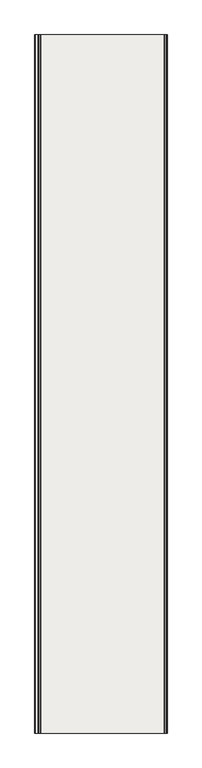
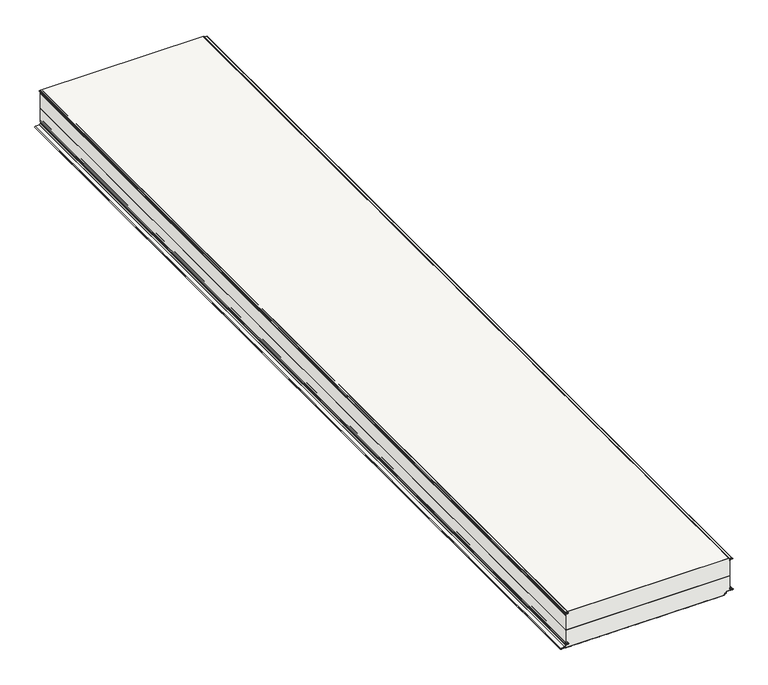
"""IFC4 building model written with IfcOpenShell, lengths in millimetres: covering geometry, Wall sandwich panel SPW-H CORE WOOL (single sheet) : -."""

from ifc_helpers import new_model, si_unit, point, frame, frame_2d, origin, place, context, project, spatial, polyline, circle_curve, trimmed, segment, composite_curve, outline, extrude, source, transform, mapped, element, save
from ifc_brep_helpers import plane_surface, cylinder_surface, revolved_surface, advanced_brep


def covering_f1df908d(model_context):
    return source(origin(), model_context, "Body", "SolidModel", [
        extrude(outline(composite_curve([segment(polyline([(-240.0, -1049.0098003), (-239.6, -1047.6275239), (-239.6, -1003.4098003), (-240.0, -1002.0275239), (-240.0, -957.8098003), (-239.6, -956.4275239), (-239.6, -912.2098003), (-240.0, -910.8275239), (-240.0, -866.6098003), (-239.6, -865.2275239), (-239.6, -821.0098003), (-240.0, -819.6275239), (-240.0, -775.4098003), (-239.6, -774.0275239), (-239.6, -729.8098003), (-240.0, -728.4275239), (-240.0, -684.2098003), (-239.6, -682.8275239), (-239.6, -638.6098003), (-240.0, -637.2275239), (-240.0, -593.0098003), (-239.6, -591.6275239), (-239.6, -547.4098003), (-240.0, -546.0275239), (-240.0, -501.8098003), (-239.6, -500.4275239), (-239.6, -456.2098003), (-240.0, -454.8275239), (-240.0, -410.6098003), (-239.6, -409.2275239), (-239.6, -365.0098003), (-240.0, -363.6275239), (-240.0, -319.4098003), (-239.6, -318.0275239), (-239.6, -273.8098003), (-240.0, -272.4275239), (-240.0, -228.2098003), (-239.6, -226.8275239), (-239.6, -182.6098003), (-240.0, -181.2275239), (-240.0, -137.0098003), (-239.6, -135.6275239), (-239.6, -91.4098003), (-240.0, -90.0275239), (-240.0, -73.4477183)]), True, "CONTINUOUS"), segment(trimmed(circle_curve(frame_2d((-235.0, -73.4477183)), 5.0), [point((-240.0, -73.4477183))], [point((-235.0, -68.4477183))], False, "CARTESIAN"), True, "CONTINUOUS"), segment(polyline([(-235.0, -68.4477183), (-232.008232, -68.4477183)]), True, "CONTINUOUS"), segment(trimmed(circle_curve(frame_2d((-232.008232, -66.4315256)), 2.0161927), [point((-232.008232, -68.4477183))], [point((-229.9920393, -66.4315256))], True, "CARTESIAN"), True, "CONTINUOUS"), segment(polyline([(-229.9920393, -66.4315256), (-229.9920393, -60.9141788)]), True, "CONTINUOUS"), segment(trimmed(circle_curve(frame_2d((-227.4959919, -60.9141788)), 2.4960474), [point((-229.9920393, -60.9141788))], [point((-227.9326372, -58.4566204))], False, "CARTESIAN"), True, "CONTINUOUS"), segment(polyline([(-227.9326372, -58.4566204), (-221.6533464, -57.3460478)]), True, "CONTINUOUS"), segment(trimmed(circle_curve(frame_2d((-222.0004127, -55.3763918)), 2.0), [point((-221.6533464, -57.3460478))], [point((-220.0004127, -55.3763918))], True, "CARTESIAN"), True, "CONTINUOUS"), segment(polyline([(-220.0004127, -55.3763918), (-220.0004127, -18.8763918)]), True, "CONTINUOUS"), segment(trimmed(circle_curve(frame_2d((-217.0004127, -18.8763918)), 3.0), [point((-220.0004127, -18.8763918))], [point((-214.0045241, -18.7193839))], False, "CARTESIAN"), True, "CONTINUOUS"), segment(polyline([(-214.0045241, -18.7193839), (-213.2754556, -32.6308399)]), True, "CONTINUOUS"), segment(trimmed(circle_curve(frame_2d((-210.7788817, -32.5)), 2.5), [point((-213.2754556, -32.6308399))], [point((-210.7788817, -35.0))], True, "CARTESIAN"), True, "CONTINUOUS"), segment(polyline([(-210.7788817, -35.0), (-201.4988817, -35.0), (-201.4988817, -36.0), (-210.7788817, -36.0)]), True, "CONTINUOUS"), segment(trimmed(circle_curve(frame_2d((-210.7788817, -32.5)), 3.5), [point((-210.7788817, -36.0))], [point((-214.2740851, -32.6831758))], False, "CARTESIAN"), True, "CONTINUOUS"), segment(polyline([(-214.2740851, -32.6831758), (-215.0031536, -18.7717199)]), True, "CONTINUOUS"), segment(trimmed(circle_curve(frame_2d((-217.0004127, -18.8763918)), 2.0), [point((-215.0031536, -18.7717199))], [point((-219.0004127, -18.8763918))], True, "CARTESIAN"), True, "CONTINUOUS"), segment(polyline([(-219.0004127, -18.8763918), (-219.0004127, -55.3763918)]), True, "CONTINUOUS"), segment(trimmed(circle_curve(frame_2d((-222.0004127, -55.3763918)), 3.0), [point((-219.0004127, -55.3763918))], [point((-221.4794682, -58.330815))], False, "CARTESIAN"), True, "CONTINUOUS"), segment(polyline([(-221.4794682, -58.330815), (-227.7580406, -59.4412605)]), True, "CONTINUOUS"), segment(trimmed(circle_curve(frame_2d((-227.4959919, -60.9141788)), 1.4960474), [point((-227.7580406, -59.4412605))], [point((-228.9920393, -60.9141788))], True, "CARTESIAN"), True, "CONTINUOUS"), segment(polyline([(-228.9920393, -60.9141788), (-228.9920393, -66.4315256)]), True, "CONTINUOUS"), segment(trimmed(circle_curve(frame_2d((-232.008232, -66.4315256)), 3.0161927), [point((-228.9920393, -66.4315256))], [point((-232.008232, -69.4477183))], False, "CARTESIAN"), True, "CONTINUOUS"), segment(polyline([(-232.008232, -69.4477183), (-235.0, -69.4477183)]), True, "CONTINUOUS"), segment(trimmed(circle_curve(frame_2d((-235.0, -73.4477183)), 4.0), [point((-235.0, -69.4477183))], [point((-239.0, -73.4477183))], True, "CARTESIAN"), True, "CONTINUOUS"), segment(polyline([(-239.0, -73.4477183), (-239.0, -1085.0), (-240.0, -1085.0), (-240.0, -1049.0098003)]), True, "CONTINUOUS")], self_intersect=False)), frame((0.0, -5800.0, 0.0), z_axis=(0.0, 1.0, 0.0), x_axis=(0.0, 0.0, 1.0)), (0.0, 0.0, 1.0), 5800.0),
        extrude(outline(composite_curve([segment(polyline([(-239.0, -1085.0), (-240.0, -1085.0), (-240.0, -73.4477183)]), True, "CONTINUOUS"), segment(trimmed(circle_curve(frame_2d((-235.0, -73.4477183)), 5.0), [point((-240.0, -73.4477183))], [point((-235.0, -68.4477183))], False, "CARTESIAN"), True, "CONTINUOUS"), segment(polyline([(-235.0, -68.4477183), (-232.008232, -68.4477183)]), True, "CONTINUOUS"), segment(trimmed(circle_curve(frame_2d((-232.008232, -66.4315256)), 2.0161927), [point((-232.008232, -68.4477183))], [point((-229.9920393, -66.4315256))], True, "CARTESIAN"), True, "CONTINUOUS"), segment(polyline([(-229.9920393, -66.4315256), (-229.9920393, -60.9141788)]), True, "CONTINUOUS"), segment(trimmed(circle_curve(frame_2d((-227.4959919, -60.9141788)), 2.4960474), [point((-229.9920393, -60.9141788))], [point((-227.9326372, -58.4566204))], False, "CARTESIAN"), True, "CONTINUOUS"), segment(polyline([(-227.9326372, -58.4566204), (-221.6533464, -57.3460478)]), True, "CONTINUOUS"), segment(trimmed(circle_curve(frame_2d((-222.0004127, -55.3763918)), 2.0), [point((-221.6533464, -57.3460478))], [point((-220.0004127, -55.3763918))], True, "CARTESIAN"), True, "CONTINUOUS"), segment(polyline([(-220.0004127, -55.3763918), (-220.0004127, -18.8763918)]), True, "CONTINUOUS"), segment(trimmed(circle_curve(frame_2d((-217.0004127, -18.8763918)), 3.0), [point((-220.0004127, -18.8763918))], [point((-214.0045241, -18.7193839))], False, "CARTESIAN"), True, "CONTINUOUS"), segment(polyline([(-214.0045241, -18.7193839), (-213.2754556, -32.6308399)]), True, "CONTINUOUS"), segment(trimmed(circle_curve(frame_2d((-210.7788817, -32.5)), 2.5), [point((-213.2754556, -32.6308399))], [point((-210.7788817, -35.0))], True, "CARTESIAN"), True, "CONTINUOUS"), segment(polyline([(-210.7788817, -35.0), (-201.4988817, -35.0), (-201.4988817, -36.0), (-210.7788817, -36.0)]), True, "CONTINUOUS"), segment(trimmed(circle_curve(frame_2d((-210.7788817, -32.5)), 3.5), [point((-210.7788817, -36.0))], [point((-214.2740851, -32.6831758))], False, "CARTESIAN"), True, "CONTINUOUS"), segment(polyline([(-214.2740851, -32.6831758), (-215.0031536, -18.7717199)]), True, "CONTINUOUS"), segment(trimmed(circle_curve(frame_2d((-217.0004127, -18.8763918)), 2.0), [point((-215.0031536, -18.7717199))], [point((-219.0004127, -18.8763918))], True, "CARTESIAN"), True, "CONTINUOUS"), segment(polyline([(-219.0004127, -18.8763918), (-219.0004127, -55.3763918)]), True, "CONTINUOUS"), segment(trimmed(circle_curve(frame_2d((-222.0004127, -55.3763918)), 3.0), [point((-219.0004127, -55.3763918))], [point((-221.4794682, -58.330815))], False, "CARTESIAN"), True, "CONTINUOUS"), segment(polyline([(-221.4794682, -58.330815), (-227.7580406, -59.4412605)]), True, "CONTINUOUS"), segment(trimmed(circle_curve(frame_2d((-227.4959919, -60.9141788)), 1.4960474), [point((-227.7580406, -59.4412605))], [point((-228.9920393, -60.9141788))], True, "CARTESIAN"), True, "CONTINUOUS"), segment(polyline([(-228.9920393, -60.9141788), (-228.9920393, -66.4315256)]), True, "CONTINUOUS"), segment(trimmed(circle_curve(frame_2d((-232.008232, -66.4315256)), 3.0161927), [point((-228.9920393, -66.4315256))], [point((-232.008232, -69.4477183))], False, "CARTESIAN"), True, "CONTINUOUS"), segment(polyline([(-232.008232, -69.4477183), (-235.0, -69.4477183)]), True, "CONTINUOUS"), segment(trimmed(circle_curve(frame_2d((-235.0, -73.4477183)), 4.0), [point((-235.0, -69.4477183))], [point((-239.0, -73.4477183))], True, "CARTESIAN"), True, "CONTINUOUS"), segment(polyline([(-239.0, -73.4477183), (-239.0, -1085.0)]), True, "CONTINUOUS")], self_intersect=False)), frame((0.0, -5800.0, 0.0), z_axis=(0.0, 1.0, 0.0), x_axis=(0.0, 0.0, 1.0)), (0.0, 0.0, 1.0), 5800.0),
        extrude(outline(composite_curve([segment(polyline([(-15.1088808, -1083.0523342), (-14.5423642, -1072.2421915)]), True, "CONTINUOUS"), segment(trimmed(circle_curve(frame_2d((-9.549216, -1072.5038626)), 5.0), [point((-14.5423642, -1072.2421915))], [point((-4.5522622, -1072.3293564))], False, "CARTESIAN"), True, "CONTINUOUS"), segment(polyline([(-4.5522622, -1072.3293564), (-4.0495702, -1086.7238513)]), True, "CONTINUOUS"), segment(trimmed(circle_curve(frame_2d((-2.5266447, -1086.6173526)), 1.5266447), [point((-4.0495702, -1086.7238513))], [point((-1.0, -1086.6173526))], True, "CARTESIAN"), True, "CONTINUOUS"), segment(polyline([(-1.0, -1086.6173526), (-1.0, -1085.0), (0.0, -1085.0), (0.0, -1086.6173526)]), True, "CONTINUOUS"), segment(trimmed(circle_curve(frame_2d((-2.5266447, -1086.6173526)), 2.5266447), [point((0.0, -1086.6173526))], [point((-5.0484281, -1086.7740115))], False, "CARTESIAN"), True, "CONTINUOUS"), segment(polyline([(-5.0484281, -1086.7740115), (-5.551653, -1072.3642576)]), True, "CONTINUOUS"), segment(trimmed(circle_curve(frame_2d((-9.549216, -1072.5038626)), 4.0), [point((-5.551653, -1072.3642576))], [point((-13.5437346, -1072.2945257))], True, "CARTESIAN"), True, "CONTINUOUS"), segment(polyline([(-13.5437346, -1072.2945257), (-14.1102512, -1083.1046684)]), True, "CONTINUOUS"), segment(trimmed(circle_curve(frame_2d((-16.1075105, -1083.0)), 2.0), [point((-14.1102512, -1083.1046684))], [point((-16.1075105, -1085.0))], False, "CARTESIAN"), True, "CONTINUOUS"), segment(polyline([(-16.1075105, -1085.0), (-18.1075105, -1085.0), (-18.1075105, -1084.0), (-16.1075105, -1084.0)]), True, "CONTINUOUS"), segment(trimmed(circle_curve(frame_2d((-16.1075105, -1083.0)), 1.0), [point((-16.1075105, -1084.0))], [point((-15.1088808, -1083.0523342))], True, "CARTESIAN"), True, "CONTINUOUS")], self_intersect=False)), frame((0.0, -5800.0, 0.0), z_axis=(0.0, 1.0, 0.0), x_axis=(0.0, 0.0, 1.0)), (0.0, 0.0, 1.0), 5800.0),
        advanced_brep(
        [(-1080.5824878, -5800.0, -222.0150874), (-1069.3324879, -5800.0, -221.9992045), (-1069.0709825, -5800.0, -212.0060522), (-1083.2742211, -5800.0, -211.2619406), (-1084.0, -5800.0, -210.4971426), (-1084.0, -5800.0, -201.4971426), (-1085.0, -5800.0, -201.4971426), (-1085.0, -5800.0, -210.4971426), (-1083.3265396, -5800.0, -212.260571), (-1069.123301, -5800.0, -213.0046827), (-1069.3331636, -5800.0, -220.9992044), (-1080.6396582, -5800.0, -221.0151671), (-1082.7899391, -5800.0, -222.27871), (-1088.1496634, -5800.0, -229.933474), (-1090.1975249, -5800.0, -230.9995686), (-1113.4143745, -5800.0, -230.9999738), (-1113.414296, -5800.0, -240.0), (-1085.0, -5800.0, -240.0), (-1085.0, -5800.0, -239.0), (-1113.414296, -5800.0, -239.0), (-1113.4143571, -5800.0, -232.0), (-1090.1975075, -5800.0, -231.9995686), (-1087.3305014, -5800.0, -230.5070361), (-1081.9707771, -5800.0, -222.8522722), (-1080.5824878, 0.0, -222.0150874), (-1081.9707771, 0.0, -222.8522722), (-1087.3305014, 0.0, -230.5070361), (-1090.1975075, 0.0, -231.9995686), (-1113.4143571, 0.0, -231.9999738), (-1113.414296, 0.0, -239.0), (-1085.0, 0.0, -239.0), (-1085.0, 0.0, -240.0), (-1113.414296, 0.0, -240.0), (-1113.4143745, 0.0, -231.0), (-1090.1975249, 0.0, -230.9995686), (-1088.1496634, 0.0, -229.933474), (-1082.7899391, 0.0, -222.27871), (-1080.6396582, 0.0, -221.0151671), (-1069.3331636, 0.0, -220.9992044), (-1069.123301, 0.0, -213.0046827), (-1083.3265396, 0.0, -212.260571), (-1085.0, 0.0, -210.4971426), (-1085.0, 0.0, -201.4971426), (-1084.0, 0.0, -201.4971426), (-1084.0, 0.0, -210.4971426), (-1083.2742211, 0.0, -211.2619406), (-1069.0709825, 0.0, -212.0060522), (-1069.3324879, 0.0, -221.9992045)],
        [
            (0, 1),
            (1, 2, circle_curve(frame((-1069.3325751, -5800.0, -216.9992045), z_axis=(0.0, -1.0, 0.0), x_axis=(1.0, 0.0, 0.0)), 5.0)),
            (2, 3),
            (3, 4, circle_curve(frame((-1083.2341531, -5800.0, -210.4971426), z_axis=(0.0, 1.0, 0.0), x_axis=(1.0, 0.0, 0.0)), 0.7658469)),
            (4, 5),
            (5, 6),
            (6, 7),
            (7, 8, circle_curve(frame((-1083.2341531, -5800.0, -210.4971426), z_axis=(0.0, -1.0, 0.0), x_axis=(1.0, 0.0, 0.0)), 1.7658469)),
            (8, 9),
            (9, 10, circle_curve(frame((-1069.3325751, -5800.0, -216.9992045), z_axis=(0.0, 1.0, 0.0), x_axis=(1.0, 0.0, 0.0)), 4.0)),
            (10, 11),
            (11, 12, circle_curve(frame((-1080.3324529, -5800.0, -223.9993964), z_axis=(0.0, -1.0, 0.0), x_axis=(1.0, 0.0, 0.0)), 3.0)),
            (12, 13),
            (13, 14, circle_curve(frame((-1090.1975686, -5800.0, -228.4995686), z_axis=(0.0, 1.0, 0.0), x_axis=(1.0, 0.0, 0.0)), 2.5)),
            (14, 15),
            (15, 16, circle_curve(frame((-1113.414296, -5800.0, -235.5), z_axis=(0.0, -1.0, 0.0), x_axis=(1.0, 0.0, 0.0)), 4.5)),
            (16, 17),
            (17, 18),
            (18, 19),
            (19, 20, circle_curve(frame((-1113.414296, -5800.0, -235.5), z_axis=(0.0, 1.0, 0.0), x_axis=(1.0, 0.0, 0.0)), 3.5)),
            (20, 21),
            (21, 22, circle_curve(frame((-1090.1975686, -5800.0, -228.4995686), z_axis=(0.0, -1.0, 0.0), x_axis=(1.0, 0.0, 0.0)), 3.5)),
            (22, 23),
            (23, 0, circle_curve(frame((-1080.3324529, -5800.0, -223.9993964), z_axis=(0.0, 1.0, 0.0), x_axis=(1.0, 0.0, 0.0)), 2.0)),
            (24, 25, circle_curve(frame((-1080.3324529, 0.0, -223.9993964), z_axis=(0.0, -1.0, 0.0), x_axis=(1.0, 0.0, 0.0)), 2.0)),
            (25, 26),
            (26, 27, circle_curve(frame((-1090.1975686, 0.0, -228.4995686), z_axis=(0.0, 1.0, 0.0), x_axis=(1.0, 0.0, 0.0)), 3.5)),
            (27, 28),
            (28, 29, circle_curve(frame((-1113.414296, 0.0, -235.5), z_axis=(0.0, -1.0, 0.0), x_axis=(1.0, 0.0, 0.0)), 3.5)),
            (29, 30),
            (30, 31),
            (31, 32),
            (32, 33, circle_curve(frame((-1113.414296, 0.0, -235.5), z_axis=(0.0, 1.0, 0.0), x_axis=(1.0, 0.0, 0.0)), 4.5)),
            (33, 34),
            (34, 35, circle_curve(frame((-1090.1975686, 0.0, -228.4995686), z_axis=(0.0, -1.0, 0.0), x_axis=(1.0, 0.0, 0.0)), 2.5)),
            (35, 36),
            (36, 37, circle_curve(frame((-1080.3324529, 0.0, -223.9993964), z_axis=(0.0, 1.0, 0.0), x_axis=(1.0, 0.0, 0.0)), 3.0)),
            (37, 38),
            (38, 39, circle_curve(frame((-1069.3325751, 0.0, -216.9992045), z_axis=(0.0, -1.0, 0.0), x_axis=(1.0, 0.0, 0.0)), 4.0)),
            (39, 40),
            (40, 41, circle_curve(frame((-1083.2341531, 0.0, -210.4971426), z_axis=(0.0, 1.0, 0.0), x_axis=(1.0, 0.0, 0.0)), 1.7658469)),
            (41, 42),
            (42, 43),
            (43, 44),
            (44, 45, circle_curve(frame((-1083.2341531, 0.0, -210.4971426), z_axis=(0.0, -1.0, 0.0), x_axis=(1.0, 0.0, 0.0)), 0.7658469)),
            (45, 46),
            (46, 47, circle_curve(frame((-1069.3325751, 0.0, -216.9992045), z_axis=(0.0, 1.0, 0.0), x_axis=(1.0, 0.0, 0.0)), 5.0)),
            (47, 24),
            (0, 24),
            (47, 1),
            (46, 2),
            (45, 3),
            (44, 4),
            (43, 5),
            (42, 6),
            (41, 7),
            (40, 8),
            (39, 9),
            (38, 10),
            (37, 11),
            (36, 12),
            (35, 13),
            (34, 14),
            (33, 15),
            (32, 16),
            (31, 17),
            (30, 18),
            (29, 19),
            (28, 20),
            (27, 21),
            (26, 22),
            (25, 23),
        ],
        [
            plane_surface(frame((-1085.0, -5800.0, -240.0), z_axis=(0.0, -1.0, 0.0), x_axis=(0.0, 0.0, -1.0))),
            plane_surface(frame((-1085.0, 0.0, -240.0), z_axis=(0.0, 1.0, 0.0), x_axis=(0.0, 0.0, -1.0))),
            plane_surface(frame((-1080.5824878, -5800.0, -222.0150874), z_axis=(0.001411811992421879, 0.0, -0.9999990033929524), x_axis=(0.0, 1.0, 0.0))),
            cylinder_surface(frame((-1069.3325751, -5800.0, -216.9992045), z_axis=(0.0, -1.0, 0.0), x_axis=(1.0, 0.0, 0.0)), 5.0),
            plane_surface(frame((-1069.0709825, -5800.0, -212.0060522), z_axis=(0.052318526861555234, 0.0, 0.998630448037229), x_axis=(0.0, 1.0, 0.0))),
            revolved_surface(polyline([(-1082.4683062, 0.0, -210.4971426), (-1082.4683062, -5800.0, -210.4971426)]), (-1083.2341531, -5800.0, -210.4971426), (0.0, 1.0, 0.0)),
            plane_surface(frame((-1084.0, -5800.0, -210.4971426), z_axis=(1.0, 0.0, 0.0), x_axis=(0.0, 1.0, 0.0))),
            plane_surface(frame((-1084.0, -5800.0, -201.4971426), z_axis=(0.0, 0.0, 1.0), x_axis=(0.0, 1.0, 0.0))),
            plane_surface(frame((-1085.0, -5800.0, -201.4971426), z_axis=(-1.0, 0.0, 0.0), x_axis=(0.0, 1.0, 0.0))),
            cylinder_surface(frame((-1083.2341531, -5800.0, -210.4971426), z_axis=(0.0, -1.0, 0.0), x_axis=(1.0, 0.0, 0.0)), 1.7658469),
            plane_surface(frame((-1083.3265396, -5800.0, -212.260571), z_axis=(-0.052318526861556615, 0.0, -0.998630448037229), x_axis=(0.0, 1.0, 0.0))),
            revolved_surface(polyline([(-1065.3325751, 0.0, -216.9992045), (-1065.3325751, -5800.0, -216.9992045)]), (-1069.3325751, -5800.0, -216.9992045), (0.0, 1.0, 0.0)),
            plane_surface(frame((-1069.3331636, -5800.0, -220.9992044), z_axis=(-0.0014118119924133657, 0.0, 0.9999990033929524), x_axis=(0.0, 1.0, 0.0))),
            cylinder_surface(frame((-1080.3324529, -5800.0, -223.9993964), z_axis=(0.0, -1.0, 0.0), x_axis=(1.0, 0.0, 0.0)), 3.0),
            plane_surface(frame((-1082.7899391, -5800.0, -222.27871), z_axis=(-0.8191620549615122, 0.0, 0.5735621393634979), x_axis=(0.0, 1.0, 0.0))),
            revolved_surface(polyline([(-1087.6975686, 0.0, -228.4995686), (-1087.6975686, -5800.0, -228.4995686)]), (-1090.1975686, -5800.0, -228.4995686), (0.0, 1.0, 0.0)),
            plane_surface(frame((-1090.1975249, -5800.0, -230.9995686), z_axis=(-1.7453292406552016e-05, 0.0, 0.9999999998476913), x_axis=(0.0, 1.0, 0.0))),
            cylinder_surface(frame((-1113.414296, -5800.0, -235.5), z_axis=(0.0, -1.0, 0.0), x_axis=(1.0, 0.0, 0.0)), 4.5),
            plane_surface(frame((-1113.414296, -5800.0, -240.0), z_axis=(0.0, 0.0, -1.0), x_axis=(0.0, 1.0, 0.0))),
            plane_surface(frame((-1085.0, -5800.0, -240.0), z_axis=(1.0, 0.0, 0.0), x_axis=(0.0, 1.0, 0.0))),
            plane_surface(frame((-1085.0, -5800.0, -239.0), z_axis=(0.0, 0.0, 1.0), x_axis=(0.0, 1.0, 0.0))),
            revolved_surface(polyline([(-1109.914296, 0.0, -235.5), (-1109.914296, -5800.0, -235.5)]), (-1113.414296, -5800.0, -235.5), (0.0, 1.0, 0.0)),
            plane_surface(frame((-1113.4143571, -5800.0, -231.9999738), z_axis=(1.7453292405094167e-05, 0.0, -0.9999999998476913), x_axis=(0.0, 1.0, 0.0))),
            cylinder_surface(frame((-1090.1975686, -5800.0, -228.4995686), z_axis=(0.0, -1.0, 0.0), x_axis=(1.0, 0.0, 0.0)), 3.5),
            plane_surface(frame((-1087.3305014, -5800.0, -230.5070361), z_axis=(0.8191620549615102, 0.0, -0.5735621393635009), x_axis=(0.0, 1.0, 0.0))),
            revolved_surface(polyline([(-1078.3324529, 0.0, -223.9993964), (-1078.3324529, -5800.0, -223.9993964)]), (-1080.3324529, -5800.0, -223.9993964), (0.0, 1.0, 0.0)),
        ],
        [
            (0, [[1, 2, 3, 4, 5, 6, 7, 8, 9, 10, 11, 12, 13, 14, 15, 16, 17, 18, 19, 20, 21, 22, 23, 24]]),
            (1, [[25, 26, 27, 28, 29, 30, 31, 32, 33, 34, 35, 36, 37, 38, 39, 40, 41, 42, 43, 44, 45, 46, 47, 48]]),
            (2, [[-1, 49, -48, 50]]),
            (3, [[-2, -50, -47, 51]]),
            (4, [[-3, -51, -46, 52]]),
            (5, [[-4, -52, -45, 53]]),
            (6, [[-5, -53, -44, 54]]),
            (7, [[-6, -54, -43, 55]]),
            (8, [[-7, -55, -42, 56]]),
            (9, [[-8, -56, -41, 57]]),
            (10, [[-9, -57, -40, 58]]),
            (11, [[-10, -58, -39, 59]]),
            (12, [[-11, -59, -38, 60]]),
            (13, [[-12, -60, -37, 61]]),
            (14, [[-13, -61, -36, 62]]),
            (15, [[-14, -62, -35, 63]]),
            (16, [[-15, -63, -34, 64]]),
            (17, [[-16, -64, -33, 65]]),
            (18, [[-17, -65, -32, 66]]),
            (19, [[-18, -66, -31, 67]]),
            (20, [[-19, -67, -30, 68]]),
            (21, [[-20, -68, -29, 69]]),
            (22, [[-21, -69, -28, 70]]),
            (23, [[-22, -70, -27, 71]]),
            (24, [[-23, -71, -26, 72]]),
            (25, [[-24, -72, -25, -49]]),
        ],
    ),
        extrude(outline(composite_curve([segment(polyline([(-1.0, -1085.0), (-1.0, -42.1186621)]), True, "CONTINUOUS"), segment(trimmed(circle_curve(frame_2d((-2.5, -42.1186621)), 1.5), [point((-1.0, -42.1186621))], [point((-2.5, -40.6186621))], True, "CARTESIAN"), True, "CONTINUOUS"), segment(polyline([(-2.5, -40.6186621), (-4.3, -40.6186621)]), True, "CONTINUOUS"), segment(trimmed(circle_curve(frame_2d((-4.3, -38.1186621)), 2.5), [point((-4.3, -40.6186621))], [point((-6.7984771, -38.2059108))], False, "CARTESIAN"), True, "CONTINUOUS"), segment(polyline([(-6.7984771, -38.2059108), (-7.363951, -22.012857)]), True, "CONTINUOUS"), segment(trimmed(circle_curve(frame_2d((-9.3627326, -22.082656)), 2.0), [point((-7.363951, -22.012857))], [point((-11.3599917, -21.9779841))], True, "CARTESIAN"), True, "CONTINUOUS"), segment(polyline([(-11.3599917, -21.9779841), (-11.921027, -32.6831758)]), True, "CONTINUOUS"), segment(trimmed(circle_curve(frame_2d((-15.4162304, -32.5)), 3.5), [point((-11.921027, -32.6831758))], [point((-15.4162304, -36.0))], False, "CARTESIAN"), True, "CONTINUOUS"), segment(polyline([(-15.4162304, -36.0), (-18.1062304, -36.0), (-18.1062304, -35.0), (-15.4162304, -35.0)]), True, "CONTINUOUS"), segment(trimmed(circle_curve(frame_2d((-15.4162304, -32.5)), 2.5), [point((-15.4162304, -35.0))], [point((-12.9196566, -32.6308399))], True, "CARTESIAN"), True, "CONTINUOUS"), segment(polyline([(-12.9196566, -32.6308399), (-12.3586212, -21.9256482)]), True, "CONTINUOUS"), segment(trimmed(circle_curve(frame_2d((-9.3627326, -22.082656)), 3.0), [point((-12.3586212, -21.9256482))], [point((-6.3645601, -21.9779575))], False, "CARTESIAN"), True, "CONTINUOUS"), segment(polyline([(-6.3645601, -21.9779575), (-5.7990862, -38.1710114)]), True, "CONTINUOUS"), segment(trimmed(circle_curve(frame_2d((-4.3, -38.1186621)), 1.5), [point((-5.7990862, -38.1710114))], [point((-4.3, -39.6186621))], True, "CARTESIAN"), True, "CONTINUOUS"), segment(polyline([(-4.3, -39.6186621), (-2.5, -39.6186621)]), True, "CONTINUOUS"), segment(trimmed(circle_curve(frame_2d((-2.5, -42.1186621)), 2.5), [point((-2.5, -39.6186621))], [point((0.0, -42.1186621))], False, "CARTESIAN"), True, "CONTINUOUS"), segment(polyline([(0.0, -42.1186621), (0.0, -1085.0), (-1.0, -1085.0)]), True, "CONTINUOUS")], self_intersect=False)), frame((0.0, -5800.0, 0.0), z_axis=(0.0, 1.0, 0.0), x_axis=(0.0, 0.0, 1.0)), (0.0, 0.0, 1.0), 5800.0),
        advanced_brep(
        [(-1113.414296, -5800.0, -239.0), (-1085.0, -5800.0, -239.0), (-73.4477183, -5800.0, -239.0), (-69.4477183, -5800.0, -235.0), (-69.4477183, -5800.0, -232.0078193), (-66.4315256, -5800.0, -228.9916266), (-60.9141788, -5800.0, -228.9916266), (-59.4412605, -5800.0, -227.7576279), (-58.330815, -5800.0, -221.4790555), (-55.3763918, -5800.0, -219.0), (-18.8763918, -5800.0, -219.0), (-18.7717199, -5800.0, -215.0027409), (-32.6831758, -5800.0, -214.2736724), (-36.0, -5800.0, -210.778469), (-36.0, -5800.0, -120.0), (-1084.0, -5800.0, -120.0), (-1084.0, -5800.0, -210.4973345), (-1083.2742211, -5800.0, -211.2621326), (-1069.0709825, -5800.0, -212.0062442), (-1069.3324879, -5800.0, -221.9993964), (-1080.3324878, -5800.0, -221.9993964), (-1081.9707771, -5800.0, -222.8522722), (-1087.3305014, -5800.0, -230.5070361), (-1090.1975075, -5800.0, -231.9995686), (-1113.4143571, -5800.0, -231.9995686), (-1085.0, 0.0, -239.0), (-1113.414296, 0.0, -239.0), (-1113.4143571, 0.0, -232.0), (-1090.1975075, 0.0, -231.9995686), (-1087.3305014, 0.0, -230.5070361), (-1081.9707771, 0.0, -222.8522722), (-1080.3324878, 0.0, -221.9993964), (-1069.3324879, 0.0, -221.9993964), (-1069.0709825, 0.0, -212.0062442), (-1083.2742211, 0.0, -211.2621326), (-1084.0, 0.0, -210.4973345), (-1084.0, 0.0, -120.0), (-36.0, 0.0, -120.0), (-36.0, 0.0, -210.778469), (-32.6831758, 0.0, -214.2736724), (-18.7717199, 0.0, -215.0027409), (-18.8763918, 0.0, -219.0), (-55.3763918, 0.0, -219.0), (-58.330815, 0.0, -221.4790555), (-59.4412605, 0.0, -227.7576279), (-60.9141788, 0.0, -228.9916266), (-66.4315256, 0.0, -228.9916266), (-69.4477183, 0.0, -232.0078193), (-69.4477183, 0.0, -235.0), (-73.4477183, 0.0, -239.0)],
        [
            (0, 1),
            (1, 2),
            (2, 3, circle_curve(frame((-73.4477183, -5800.0, -235.0), z_axis=(0.0, -1.0, 0.0), x_axis=(-1.0, 0.0, 0.0)), 4.0)),
            (3, 4),
            (4, 5, circle_curve(frame((-66.4315256, -5800.0, -232.0078193), z_axis=(0.0, 1.0, 0.0), x_axis=(-1.0, 0.0, 0.0)), 3.0161927)),
            (5, 6),
            (6, 7, circle_curve(frame((-60.9141788, -5800.0, -227.4955792), z_axis=(0.0, -1.0, 0.0), x_axis=(-1.0, 0.0, 0.0)), 1.4960474)),
            (7, 8),
            (8, 9, circle_curve(frame((-55.3763918, -5800.0, -222.0), z_axis=(0.0, 1.0, 0.0), x_axis=(-1.0, 0.0, 0.0)), 3.0)),
            (9, 10),
            (10, 11, circle_curve(frame((-18.8763918, -5800.0, -217.0), z_axis=(0.0, -1.0, 0.0), x_axis=(-1.0, 0.0, 0.0)), 2.0)),
            (11, 12),
            (12, 13, circle_curve(frame((-32.5, -5800.0, -210.778469), z_axis=(0.0, 1.0, 0.0), x_axis=(-1.0, 0.0, 0.0)), 3.5)),
            (13, 14),
            (14, 15),
            (15, 16),
            (16, 17, circle_curve(frame((-1083.2341531, -5800.0, -210.4973345), z_axis=(0.0, -1.0, 0.0), x_axis=(-1.0, 0.0, 0.0)), 0.7658469)),
            (17, 18),
            (18, 19, circle_curve(frame((-1069.3325751, -5800.0, -216.9993964), z_axis=(0.0, 1.0, 0.0), x_axis=(-1.0, 0.0, 0.0)), 5.0)),
            (19, 20),
            (20, 21, circle_curve(frame((-1080.3324529, -5800.0, -223.9993964), z_axis=(0.0, -1.0, 0.0), x_axis=(-1.0, 0.0, 0.0)), 2.0)),
            (21, 22),
            (22, 23, circle_curve(frame((-1090.1975686, -5800.0, -228.4995686), z_axis=(0.0, 1.0, 0.0), x_axis=(-1.0, 0.0, 0.0)), 3.5)),
            (23, 24),
            (24, 0, circle_curve(frame((-1113.414296, -5800.0, -235.5), z_axis=(0.0, -1.0, 0.0), x_axis=(-1.0, 0.0, 0.0)), 3.5)),
            (25, 26),
            (26, 27, circle_curve(frame((-1113.414296, 0.0, -235.5), z_axis=(0.0, 1.0, 0.0), x_axis=(-1.0, 0.0, 0.0)), 3.5)),
            (27, 28),
            (28, 29, circle_curve(frame((-1090.1975686, 0.0, -228.4995686), z_axis=(0.0, -1.0, 0.0), x_axis=(-1.0, 0.0, 0.0)), 3.5)),
            (29, 30),
            (30, 31, circle_curve(frame((-1080.3324529, 0.0, -223.9993964), z_axis=(0.0, 1.0, 0.0), x_axis=(-1.0, 0.0, 0.0)), 2.0)),
            (31, 32),
            (32, 33, circle_curve(frame((-1069.3325751, 0.0, -216.9993964), z_axis=(0.0, -1.0, 0.0), x_axis=(-1.0, 0.0, 0.0)), 5.0)),
            (33, 34),
            (34, 35, circle_curve(frame((-1083.2341531, 0.0, -210.4973345), z_axis=(0.0, 1.0, 0.0), x_axis=(-1.0, 0.0, 0.0)), 0.7658469)),
            (35, 36),
            (36, 37),
            (37, 38),
            (38, 39, circle_curve(frame((-32.5, 0.0, -210.778469), z_axis=(0.0, -1.0, 0.0), x_axis=(-1.0, 0.0, 0.0)), 3.5)),
            (39, 40),
            (40, 41, circle_curve(frame((-18.8763918, 0.0, -217.0), z_axis=(0.0, 1.0, 0.0), x_axis=(-1.0, 0.0, 0.0)), 2.0)),
            (41, 42),
            (42, 43, circle_curve(frame((-55.3763918, 0.0, -222.0), z_axis=(0.0, -1.0, 0.0), x_axis=(-1.0, 0.0, 0.0)), 3.0)),
            (43, 44),
            (44, 45, circle_curve(frame((-60.9141788, 0.0, -227.4955792), z_axis=(0.0, 1.0, 0.0), x_axis=(-1.0, 0.0, 0.0)), 1.4960474)),
            (45, 46),
            (46, 47, circle_curve(frame((-66.4315256, 0.0, -232.0078193), z_axis=(0.0, -1.0, 0.0), x_axis=(-1.0, 0.0, 0.0)), 3.0161927)),
            (47, 48),
            (48, 49, circle_curve(frame((-73.4477183, 0.0, -235.0), z_axis=(0.0, 1.0, 0.0), x_axis=(-1.0, 0.0, 0.0)), 4.0)),
            (49, 25),
            (36, 15),
            (14, 37),
            (0, 26),
            (49, 2),
            (13, 38),
            (12, 39),
            (11, 40),
            (10, 41),
            (9, 42),
            (8, 43),
            (7, 44),
            (6, 45),
            (5, 46),
            (4, 47),
            (3, 48),
            (24, 27),
            (23, 28),
            (22, 29),
            (21, 30),
            (20, 31),
            (19, 32),
            (18, 33),
            (17, 34),
            (16, 35),
        ],
        [
            plane_surface(frame((-1145.0, -5800.0, -120.0), z_axis=(0.0, -1.0, 0.0), x_axis=(-1.0, 0.0, 0.0))),
            plane_surface(frame((-1145.0, 0.0, -120.0), z_axis=(0.0, 1.0, 0.0), x_axis=(1.0, 0.0, 0.0))),
            plane_surface(frame((25.0, -5800.0, -120.0), z_axis=(0.0, 0.0, 1.0), x_axis=(0.0, 1.0, 0.0))),
            plane_surface(frame((-1145.0, -5800.0, -239.0), z_axis=(0.0, 0.0, -1.0), x_axis=(0.0, 1.0, 0.0))),
            plane_surface(frame((-36.0, -5800.0, -15.4162304), z_axis=(1.0, 0.0, 0.0), x_axis=(0.0, 1.0, 0.0))),
            revolved_surface(polyline([(-36.0, -5800.0, -210.778469), (-36.0, 0.0, -210.778469)]), (-32.5, -5800.0, -210.778469), (0.0, -1.0, 0.0)),
            plane_surface(frame((-32.6831758, -5800.0, -214.2736724), z_axis=(0.05233595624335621, 0.0, 0.9986295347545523), x_axis=(0.0, 1.0, 0.0))),
            cylinder_surface(frame((-18.8763918, -5800.0, -217.0), z_axis=(0.0, 1.0, 0.0), x_axis=(-1.0, 0.0, 0.0)), 2.0),
            plane_surface(frame((-18.8763918, -5800.0, -219.0), z_axis=(0.0, 0.0, -1.0), x_axis=(0.0, 1.0, 0.0))),
            revolved_surface(polyline([(-58.3763918, -5800.0, -222.0), (-58.3763918, 0.0, -222.0)]), (-55.3763918, -5800.0, -222.0), (0.0, -1.0, 0.0)),
            plane_surface(frame((-58.330815, -5800.0, -221.4790555), z_axis=(0.9847174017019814, 0.0, -0.1741598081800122), x_axis=(0.0, 1.0, 0.0))),
            cylinder_surface(frame((-60.9141788, -5800.0, -227.4955792), z_axis=(0.0, 1.0, 0.0), x_axis=(-1.0, 0.0, 0.0)), 1.4960474),
            plane_surface(frame((-60.9141788, -5800.0, -228.9916266), z_axis=(0.0, 0.0, -1.0), x_axis=(0.0, 1.0, 0.0))),
            revolved_surface(polyline([(-69.4477183, -5800.0, -232.0078193), (-69.4477183, 0.0, -232.0078193)]), (-66.4315256, -5800.0, -232.0078193), (0.0, -1.0, 0.0)),
            plane_surface(frame((-69.4477183, -5800.0, -232.0078193), z_axis=(1.0, 0.0, 0.0), x_axis=(0.0, 1.0, 0.0))),
            cylinder_surface(frame((-73.4477183, -5800.0, -235.0), z_axis=(0.0, 1.0, 0.0), x_axis=(-1.0, 0.0, 0.0)), 4.0),
            cylinder_surface(frame((-1113.414296, -5800.0, -235.5), z_axis=(0.0, 1.0, 0.0), x_axis=(-1.0, 0.0, 0.0)), 3.5),
            plane_surface(frame((-1113.4143571, -5800.0, -231.9995686), z_axis=(0.0, 0.0, 1.0), x_axis=(0.0, 1.0, 0.0))),
            revolved_surface(polyline([(-1093.6975686, -5800.0, -228.4995686), (-1093.6975686, 0.0, -228.4995686)]), (-1090.1975686, -5800.0, -228.4995686), (0.0, -1.0, 0.0)),
            plane_surface(frame((-1087.3305014, -5800.0, -230.5070361), z_axis=(-0.8191620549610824, 0.0, 0.5735621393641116), x_axis=(0.0, 1.0, 0.0))),
            cylinder_surface(frame((-1080.3324529, -5800.0, -223.9993964), z_axis=(0.0, 1.0, 0.0), x_axis=(-1.0, 0.0, 0.0)), 2.0),
            plane_surface(frame((-1080.3324878, -5800.0, -221.9993964), z_axis=(0.0, 0.0, 1.0), x_axis=(0.0, 1.0, 0.0))),
            revolved_surface(polyline([(-1074.3325751, -5800.0, -216.9993964), (-1074.3325751, 0.0, -216.9993964)]), (-1069.3325751, -5800.0, -216.9993964), (0.0, -1.0, 0.0)),
            plane_surface(frame((-1069.0709825, -5800.0, -212.0062442), z_axis=(-0.05231852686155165, 0.0, -0.9986304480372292), x_axis=(0.0, 1.0, 0.0))),
            cylinder_surface(frame((-1083.2341531, -5800.0, -210.4973345), z_axis=(0.0, 1.0, 0.0), x_axis=(-1.0, 0.0, 0.0)), 0.7658469),
            plane_surface(frame((-1084.0, -5800.0, -210.4973345), z_axis=(-1.0, 0.0, 0.0), x_axis=(0.0, 1.0, 0.0))),
        ],
        [
            (0, [[1, 2, 3, 4, 5, 6, 7, 8, 9, 10, 11, 12, 13, 14, 15, 16, 17, 18, 19, 20, 21, 22, 23, 24, 25]]),
            (1, [[26, 27, 28, 29, 30, 31, 32, 33, 34, 35, 36, 37, 38, 39, 40, 41, 42, 43, 44, 45, 46, 47, 48, 49, 50]]),
            (2, [[51, -15, 52, -37]]),
            (3, [[-1, 53, -26, -50, 54, -2]]),
            (4, [[55, -38, -52, -14]]),
            (5, [[-55, -13, 56, -39]]),
            (6, [[-56, -12, 57, -40]]),
            (7, [[-57, -11, 58, -41]]),
            (8, [[-58, -10, 59, -42]]),
            (9, [[-59, -9, 60, -43]]),
            (10, [[-60, -8, 61, -44]]),
            (11, [[-61, -7, 62, -45]]),
            (12, [[-62, -6, 63, -46]]),
            (13, [[-63, -5, 64, -47]]),
            (14, [[-64, -4, 65, -48]]),
            (15, [[-65, -3, -54, -49]]),
            (16, [[66, -27, -53, -25]]),
            (17, [[-66, -24, 67, -28]]),
            (18, [[-67, -23, 68, -29]]),
            (19, [[-68, -22, 69, -30]]),
            (20, [[-69, -21, 70, -31]]),
            (21, [[-70, -20, 71, -32]]),
            (22, [[-71, -19, 72, -33]]),
            (23, [[-72, -18, 73, -34]]),
            (24, [[-73, -17, 74, -35]]),
            (25, [[-74, -16, -51, -36]]),
        ],
    ),
        advanced_brep(
        [(-1085.0, -5800.0, -1.0), (-1086.6173526, -5800.0, -1.0), (-1086.7238513, -5800.0, -4.0495702), (-1072.3293564, -5800.0, -4.5522622), (-1072.2421915, -5800.0, -14.5423642), (-1083.0523342, -5800.0, -15.1088808), (-1084.0, -5800.0, -16.1075105), (-1084.0, -5800.0, -120.0), (-36.0, -5800.0, -120.0), (-36.0, -5800.0, -15.4162304), (-32.6831758, -5800.0, -11.921027), (-21.9779841, -5800.0, -11.3599917), (-22.012857, -5800.0, -7.363951), (-38.2059108, -5800.0, -6.7984771), (-40.6186621, -5800.0, -4.3), (-40.6186621, -5800.0, -2.5), (-42.1186621, -5800.0, -1.0), (-43.1368714, -5800.0, -1.0), (-1086.6173526, 0.0, -1.0), (-1085.0, 0.0, -1.0), (-43.1368714, 0.0, -1.0), (-42.1186621, 0.0, -1.0), (-40.6186621, 0.0, -2.5), (-40.6186621, 0.0, -4.3), (-38.2059108, 0.0, -6.7984771), (-22.012857, 0.0, -7.363951), (-21.9779841, 0.0, -11.3599917), (-32.6831758, 0.0, -11.921027), (-36.0, 0.0, -15.4162304), (-36.0, 0.0, -120.0), (-1084.0, 0.0, -120.0), (-1084.0, 0.0, -16.1075105), (-1083.0523342, 0.0, -15.1088808), (-1072.2421915, 0.0, -14.5423642), (-1072.3293564, 0.0, -4.5522622), (-1086.7238513, 0.0, -4.0495702)],
        [
            (0, 1),
            (1, 2, circle_curve(frame((-1086.6173526, -5800.0, -2.5266447), z_axis=(0.0, -1.0, 0.0), x_axis=(-1.0, 0.0, 0.0)), 1.5266447)),
            (2, 3),
            (3, 4, circle_curve(frame((-1072.5038626, -5800.0, -9.549216), z_axis=(0.0, 1.0, 0.0), x_axis=(-1.0, 0.0, 0.0)), 5.0)),
            (4, 5),
            (5, 6, circle_curve(frame((-1083.0, -5800.0, -16.1075105), z_axis=(0.0, -1.0, 0.0), x_axis=(-1.0, 0.0, 0.0)), 1.0)),
            (6, 7),
            (7, 8),
            (8, 9),
            (9, 10, circle_curve(frame((-32.5, -5800.0, -15.4162304), z_axis=(0.0, 1.0, 0.0), x_axis=(-1.0, 0.0, 0.0)), 3.5)),
            (10, 11),
            (11, 12, circle_curve(frame((-22.082656, -5800.0, -9.3627326), z_axis=(0.0, -1.0, 0.0), x_axis=(-1.0, 0.0, 0.0)), 2.0)),
            (12, 13),
            (13, 14, circle_curve(frame((-38.1186621, -5800.0, -4.3), z_axis=(0.0, 1.0, 0.0), x_axis=(-1.0, 0.0, 0.0)), 2.5)),
            (14, 15),
            (15, 16, circle_curve(frame((-42.1186621, -5800.0, -2.5), z_axis=(0.0, -1.0, 0.0), x_axis=(-1.0, 0.0, 0.0)), 1.5)),
            (16, 17),
            (17, 0),
            (18, 19),
            (19, 20),
            (20, 21),
            (21, 22, circle_curve(frame((-42.1186621, 0.0, -2.5), z_axis=(0.0, 1.0, 0.0), x_axis=(-1.0, 0.0, 0.0)), 1.5)),
            (22, 23),
            (23, 24, circle_curve(frame((-38.1186621, 0.0, -4.3), z_axis=(0.0, -1.0, 0.0), x_axis=(-1.0, 0.0, 0.0)), 2.5)),
            (24, 25),
            (25, 26, circle_curve(frame((-22.082656, 0.0, -9.3627326), z_axis=(0.0, 1.0, 0.0), x_axis=(-1.0, 0.0, 0.0)), 2.0)),
            (26, 27),
            (27, 28, circle_curve(frame((-32.5, 0.0, -15.4162304), z_axis=(0.0, -1.0, 0.0), x_axis=(-1.0, 0.0, 0.0)), 3.5)),
            (28, 29),
            (29, 30),
            (30, 31),
            (31, 32, circle_curve(frame((-1083.0, 0.0, -16.1075105), z_axis=(0.0, 1.0, 0.0), x_axis=(-1.0, 0.0, 0.0)), 1.0)),
            (32, 33),
            (33, 34, circle_curve(frame((-1072.5038626, 0.0, -9.549216), z_axis=(0.0, -1.0, 0.0), x_axis=(-1.0, 0.0, 0.0)), 5.0)),
            (34, 35),
            (35, 18, circle_curve(frame((-1086.6173526, 0.0, -2.5266447), z_axis=(0.0, 1.0, 0.0), x_axis=(-1.0, 0.0, 0.0)), 1.5266447)),
            (16, 21),
            (18, 1),
            (7, 30),
            (29, 8),
            (15, 22),
            (14, 23),
            (13, 24),
            (12, 25),
            (11, 26),
            (10, 27),
            (9, 28),
            (6, 31),
            (5, 32),
            (4, 33),
            (3, 34),
            (2, 35),
        ],
        [
            plane_surface(frame((-1145.0, -5800.0, -1.0), z_axis=(0.0, -1.0, 0.0), x_axis=(-1.0, 0.0, 0.0))),
            plane_surface(frame((-1145.0, 0.0, -1.0), z_axis=(0.0, 1.0, 0.0), x_axis=(1.0, 0.0, 0.0))),
            plane_surface(frame((25.0, -5800.0, -1.0), z_axis=(0.0, 0.0, 1.0), x_axis=(0.0, 1.0, 0.0))),
            plane_surface(frame((-1145.0, -5800.0, -120.0), z_axis=(0.0, 0.0, -1.0), x_axis=(0.0, 1.0, 0.0))),
            cylinder_surface(frame((-42.1186621, -5800.0, -2.5), z_axis=(0.0, 1.0, 0.0), x_axis=(-1.0, 0.0, 0.0)), 1.5),
            plane_surface(frame((-40.6186621, -5800.0, -2.5), z_axis=(1.0, 0.0, 0.0), x_axis=(0.0, 1.0, 0.0))),
            revolved_surface(polyline([(-40.6186621, -5800.0, -4.3), (-40.6186621, 0.0, -4.3)]), (-38.1186621, -5800.0, -4.3), (0.0, -1.0, 0.0)),
            plane_surface(frame((-38.2059108, -5800.0, -6.7984771), z_axis=(0.03489949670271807, 0.0, 0.9993908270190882), x_axis=(0.0, 1.0, 0.0))),
            cylinder_surface(frame((-22.082656, -5800.0, -9.3627326), z_axis=(0.0, 1.0, 0.0), x_axis=(-1.0, 0.0, 0.0)), 2.0),
            plane_surface(frame((-21.9779841, -5800.0, -11.3599917), z_axis=(0.05233595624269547, 0.0, -0.998629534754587), x_axis=(0.0, 1.0, 0.0))),
            revolved_surface(polyline([(-36.0, -5800.0, -15.4162304), (-36.0, 0.0, -15.4162304)]), (-32.5, -5800.0, -15.4162304), (0.0, -1.0, 0.0)),
            plane_surface(frame((-36.0, -5800.0, -15.4162304), z_axis=(1.0, 0.0, 0.0), x_axis=(0.0, 1.0, 0.0))),
            plane_surface(frame((-1084.0, -5800.0, -210.4973345), z_axis=(-1.0, 0.0, 0.0), x_axis=(0.0, 1.0, 0.0))),
            cylinder_surface(frame((-1083.0, -5800.0, -16.1075105), z_axis=(0.0, 1.0, 0.0), x_axis=(-1.0, 0.0, 0.0)), 1.0),
            plane_surface(frame((-1083.0523342, -5800.0, -15.1088808), z_axis=(-0.05233421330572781, 0.0, 0.9986296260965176), x_axis=(0.0, 1.0, 0.0))),
            revolved_surface(polyline([(-1077.5038626, -5800.0, -9.549216), (-1077.5038626, 0.0, -9.549216)]), (-1072.5038626, -5800.0, -9.549216), (0.0, -1.0, 0.0)),
            plane_surface(frame((-1072.3293564, -5800.0, -4.5522622), z_axis=(-0.0349012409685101, 0.0, -0.9993907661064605), x_axis=(0.0, 1.0, 0.0))),
            cylinder_surface(frame((-1086.6173526, -5800.0, -2.5266447), z_axis=(0.0, 1.0, 0.0), x_axis=(-1.0, 0.0, 0.0)), 1.5266447),
        ],
        [
            (0, [[1, 2, 3, 4, 5, 6, 7, 8, 9, 10, 11, 12, 13, 14, 15, 16, 17, 18]]),
            (1, [[19, 20, 21, 22, 23, 24, 25, 26, 27, 28, 29, 30, 31, 32, 33, 34, 35, 36]]),
            (2, [[-1, -18, -17, 37, -21, -20, -19, 38]]),
            (3, [[39, -30, 40, -8]]),
            (4, [[41, -22, -37, -16]]),
            (5, [[-41, -15, 42, -23]]),
            (6, [[-42, -14, 43, -24]]),
            (7, [[-43, -13, 44, -25]]),
            (8, [[-44, -12, 45, -26]]),
            (9, [[-45, -11, 46, -27]]),
            (10, [[-46, -10, 47, -28]]),
            (11, [[-47, -9, -40, -29]]),
            (12, [[48, -31, -39, -7]]),
            (13, [[-48, -6, 49, -32]]),
            (14, [[-49, -5, 50, -33]]),
            (15, [[-50, -4, 51, -34]]),
            (16, [[-51, -3, 52, -35]]),
            (17, [[-52, -2, -38, -36]]),
        ],
    ),
    ])


if __name__ == "__main__":
    model = new_model("IFC4")
    model_context = context("Model", 3, world=origin())
    ifc_project = project(units=[si_unit("LENGTHUNIT", "METRE", prefix="MILLI")], contexts=[model_context])
    site = spatial("IfcSite", under=ifc_project)
    building = spatial("IfcBuilding", under=site)
    placement = place(None, origin())
    covering_shape = covering_f1df908d(model_context)
    element("IfcCovering", 1, ObjectType="Wall sandwich panel SPW-H CORE WOOL (single sheet) : -", at=placement, inside=building, context=model_context, shape_type="MappedRepresentation", body=[
        mapped(covering_shape, transform((0.0, 0.0, 0.0), x_axis=(1.0, 0.0, 0.0), y_axis=(0.0, 1.0, 0.0), z_axis=(0.0, 0.0, 1.0))),
    ])
    save(model, "model.ifc")
